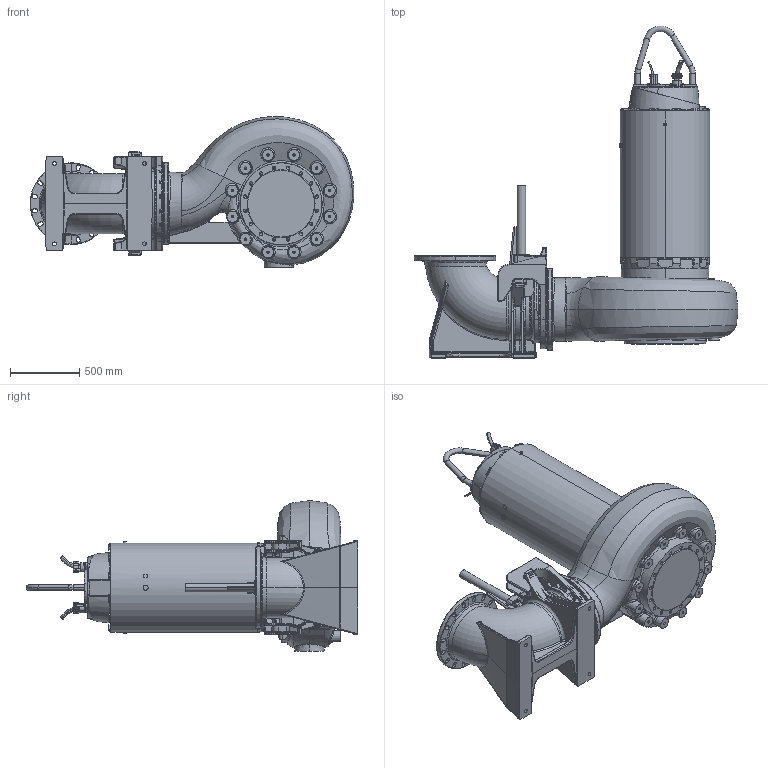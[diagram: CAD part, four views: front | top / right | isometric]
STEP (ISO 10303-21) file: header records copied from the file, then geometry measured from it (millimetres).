
FILE_DESCRIPTION (( 'STEP AP214' ), '1' );
FILE_NAME ('PE6_XFP400R-CH3_WET_A_NG2.STEP', '2017-03-28T10:56:08', ( '' ), ( '' ), 'SwSTEP 2.0', 'SolidWorks 2017', '' );
FILE_SCHEMA (( 'AUTOMOTIVE_DESIGN' ));
Length unit declared in the file: millimetre
Products named in the file (1): PE6_XFP400R-CH3_WET_A_NG2
Bounding box: 2335.14 x 2393.9 x 1088.28 mm (x, y, z)
Volume: 1031671969.5 mm3; surface area: 12656115.4 mm2
Topology: 4 solids, 20 shells, 4246 faces, 10524 edges, 6171 vertices
Faces by surface type: cylinder 1229, plane 1013, bspline 985, torus 442, cone 369, sphere 208
Entity records: 256144 total; most frequent: CARTESIAN_POINT 117604, ORIENTED_EDGE 20550, DIRECTION 17642, EDGE_CURVE 10275, AXIS2_PLACEMENT_3D 7077, VERTEX_POINT 6165, EDGE_LOOP 4510, UNCERTAINTY_MEASURE_WITH_UNIT 4252
